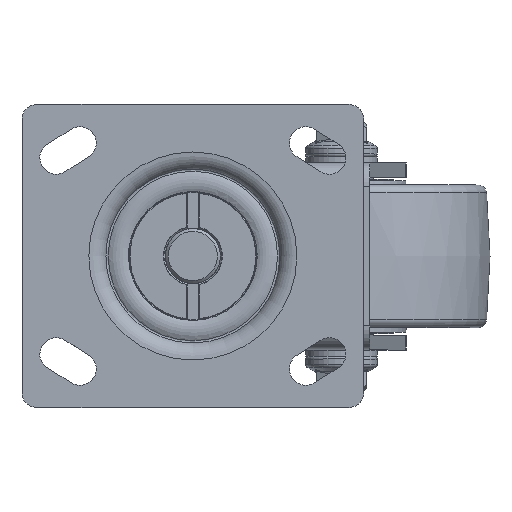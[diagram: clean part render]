
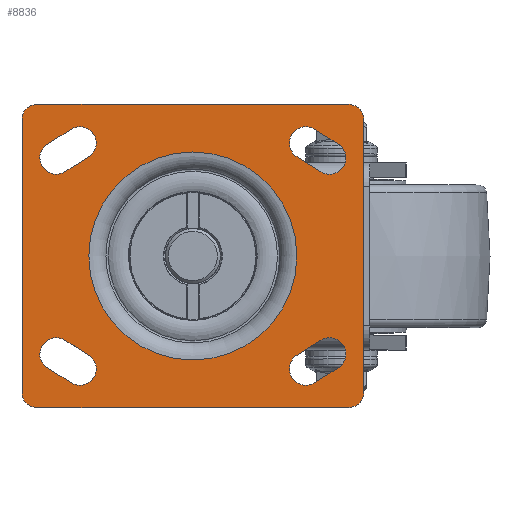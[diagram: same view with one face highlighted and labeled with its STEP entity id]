
A CAD part, top view. The second image highlights one B-rep face of the part: STEP entity #8836.
In plain terms, the highlighted planar face has unit normal (0, 0, 1).
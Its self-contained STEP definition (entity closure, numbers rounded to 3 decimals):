
#7719=CARTESIAN_POINT('',(35.0,0.,2.07));
#7720=VERTEX_POINT('',#7719);
#7721=CARTESIAN_POINT('',(0.,0.,2.07));
#7722=DIRECTION('',(0.0,0.0,-1.0));
#7723=DIRECTION('',(1.0,0.0,0.0));
#7724=AXIS2_PLACEMENT_3D('',#7721,#7722,#7723);
#7725=CIRCLE('',#7724,35.);
#7726=EDGE_CURVE('',#7720,#7720,#7725,.T.);
#8041=CARTESIAN_POINT('',(35.085,33.336,2.07));
#8042=VERTEX_POINT('',#8041);
#8049=CARTESIAN_POINT('',(43.085,28.336,2.07));
#8050=VERTEX_POINT('',#8049);
#8051=CARTESIAN_POINT('',(43.085,28.336,2.07));
#8052=DIRECTION('',(-0.848,0.53,0.0));
#8053=VECTOR('',#8052,9.434);
#8054=LINE('',#8051,#8053);
#8055=EDGE_CURVE('',#8050,#8042,#8054,.T.);
#8081=CARTESIAN_POINT('',(48.915,37.664,2.07));
#8082=VERTEX_POINT('',#8081);
#8083=CARTESIAN_POINT('',(46.0,33.,2.07));
#8084=DIRECTION('',(0.0,0.0,-1.0));
#8085=DIRECTION('',(1.0,0.0,0.0));
#8086=AXIS2_PLACEMENT_3D('',#8083,#8084,#8085);
#8087=CIRCLE('',#8086,5.5);
#8088=EDGE_CURVE('',#8082,#8050,#8087,.T.);
#8113=CARTESIAN_POINT('',(40.915,42.664,2.07));
#8114=VERTEX_POINT('',#8113);
#8115=CARTESIAN_POINT('',(40.915,42.664,2.07));
#8116=DIRECTION('',(0.848,-0.53,0.0));
#8117=VECTOR('',#8116,9.434);
#8118=LINE('',#8115,#8117);
#8119=EDGE_CURVE('',#8114,#8082,#8118,.T.);
#8143=CARTESIAN_POINT('',(38.,38.,2.07));
#8144=DIRECTION('',(0.0,0.0,-1.0));
#8145=DIRECTION('',(1.0,0.0,0.0));
#8146=AXIS2_PLACEMENT_3D('',#8143,#8144,#8145);
#8147=CIRCLE('',#8146,5.5);
#8148=EDGE_CURVE('',#8042,#8114,#8147,.T.);
#8170=CARTESIAN_POINT('',(57.5,-46.,2.07));
#8171=VERTEX_POINT('',#8170);
#8178=CARTESIAN_POINT('',(52.5,-51.,2.07));
#8179=VERTEX_POINT('',#8178);
#8180=CARTESIAN_POINT('',(52.5,-46.,2.07));
#8181=DIRECTION('',(0.0,0.0,1.0));
#8182=DIRECTION('',(1.0,0.0,0.0));
#8183=AXIS2_PLACEMENT_3D('',#8180,#8181,#8182);
#8184=CIRCLE('',#8183,5.0);
#8185=EDGE_CURVE('',#8179,#8171,#8184,.T.);
#8210=CARTESIAN_POINT('',(-52.5,-51.,2.07));
#8211=VERTEX_POINT('',#8210);
#8212=CARTESIAN_POINT('',(-52.5,-51.,2.07));
#8213=DIRECTION('',(1.0,0.0,0.0));
#8214=VECTOR('',#8213,105.0);
#8215=LINE('',#8212,#8214);
#8216=EDGE_CURVE('',#8211,#8179,#8215,.T.);
#8242=CARTESIAN_POINT('',(-57.5,-46.,2.07));
#8243=VERTEX_POINT('',#8242);
#8244=CARTESIAN_POINT('',(-52.5,-46.,2.07));
#8245=DIRECTION('',(0.0,0.0,1.0));
#8246=DIRECTION('',(1.0,0.0,0.0));
#8247=AXIS2_PLACEMENT_3D('',#8244,#8245,#8246);
#8248=CIRCLE('',#8247,5.0);
#8249=EDGE_CURVE('',#8243,#8211,#8248,.T.);
#8274=CARTESIAN_POINT('',(-57.5,46.,2.07));
#8275=VERTEX_POINT('',#8274);
#8276=CARTESIAN_POINT('',(-57.5,46.,2.07));
#8277=DIRECTION('',(0.0,-1.0,0.0));
#8278=VECTOR('',#8277,92.);
#8279=LINE('',#8276,#8278);
#8280=EDGE_CURVE('',#8275,#8243,#8279,.T.);
#8306=CARTESIAN_POINT('',(-52.5,51.,2.07));
#8307=VERTEX_POINT('',#8306);
#8308=CARTESIAN_POINT('',(-52.5,46.,2.07));
#8309=DIRECTION('',(0.0,0.0,1.0));
#8310=DIRECTION('',(1.0,0.0,0.0));
#8311=AXIS2_PLACEMENT_3D('',#8308,#8309,#8310);
#8312=CIRCLE('',#8311,5.0);
#8313=EDGE_CURVE('',#8307,#8275,#8312,.T.);
#8338=CARTESIAN_POINT('',(52.5,51.,2.07));
#8339=VERTEX_POINT('',#8338);
#8340=CARTESIAN_POINT('',(52.5,51.,2.07));
#8341=DIRECTION('',(-1.0,0.0,0.0));
#8342=VECTOR('',#8341,105.);
#8343=LINE('',#8340,#8342);
#8344=EDGE_CURVE('',#8339,#8307,#8343,.T.);
#8370=CARTESIAN_POINT('',(57.5,46.,2.07));
#8371=VERTEX_POINT('',#8370);
#8372=CARTESIAN_POINT('',(52.5,46.,2.07));
#8373=DIRECTION('',(0.0,0.0,1.0));
#8374=DIRECTION('',(1.0,0.0,0.0));
#8375=AXIS2_PLACEMENT_3D('',#8372,#8373,#8374);
#8376=CIRCLE('',#8375,5.0);
#8377=EDGE_CURVE('',#8371,#8339,#8376,.T.);
#8400=CARTESIAN_POINT('',(57.5,-46.,2.07));
#8401=DIRECTION('',(0.0,1.0,0.0));
#8402=VECTOR('',#8401,92.);
#8403=LINE('',#8400,#8402);
#8404=EDGE_CURVE('',#8171,#8371,#8403,.T.);
#8425=CARTESIAN_POINT('',(-35.085,-33.336,2.07));
#8426=VERTEX_POINT('',#8425);
#8433=CARTESIAN_POINT('',(-43.085,-28.336,2.07));
#8434=VERTEX_POINT('',#8433);
#8435=CARTESIAN_POINT('',(-43.085,-28.336,2.07));
#8436=DIRECTION('',(0.848,-0.53,0.0));
#8437=VECTOR('',#8436,9.434);
#8438=LINE('',#8435,#8437);
#8439=EDGE_CURVE('',#8434,#8426,#8438,.T.);
#8465=CARTESIAN_POINT('',(-48.915,-37.664,2.07));
#8466=VERTEX_POINT('',#8465);
#8467=CARTESIAN_POINT('',(-46.,-33.,2.07));
#8468=DIRECTION('',(0.0,0.0,-1.0));
#8469=DIRECTION('',(1.0,0.0,0.0));
#8470=AXIS2_PLACEMENT_3D('',#8467,#8468,#8469);
#8471=CIRCLE('',#8470,5.5);
#8472=EDGE_CURVE('',#8466,#8434,#8471,.T.);
#8497=CARTESIAN_POINT('',(-40.915,-42.664,2.07));
#8498=VERTEX_POINT('',#8497);
#8499=CARTESIAN_POINT('',(-40.915,-42.664,2.07));
#8500=DIRECTION('',(-0.848,0.53,0.0));
#8501=VECTOR('',#8500,9.434);
#8502=LINE('',#8499,#8501);
#8503=EDGE_CURVE('',#8498,#8466,#8502,.T.);
#8527=CARTESIAN_POINT('',(-38.0,-38.,2.07));
#8528=DIRECTION('',(0.0,0.0,-1.0));
#8529=DIRECTION('',(1.0,0.0,0.0));
#8530=AXIS2_PLACEMENT_3D('',#8527,#8528,#8529);
#8531=CIRCLE('',#8530,5.5);
#8532=EDGE_CURVE('',#8426,#8498,#8531,.T.);
#8553=CARTESIAN_POINT('',(-40.915,42.664,2.07));
#8554=VERTEX_POINT('',#8553);
#8561=CARTESIAN_POINT('',(-48.915,37.664,2.07));
#8562=VERTEX_POINT('',#8561);
#8563=CARTESIAN_POINT('',(-48.915,37.664,2.07));
#8564=DIRECTION('',(0.848,0.53,0.0));
#8565=VECTOR('',#8564,9.434);
#8566=LINE('',#8563,#8565);
#8567=EDGE_CURVE('',#8562,#8554,#8566,.T.);
#8593=CARTESIAN_POINT('',(-43.085,28.336,2.07));
#8594=VERTEX_POINT('',#8593);
#8595=CARTESIAN_POINT('',(-46.,33.,2.07));
#8596=DIRECTION('',(0.0,0.0,-1.0));
#8597=DIRECTION('',(1.0,0.0,0.0));
#8598=AXIS2_PLACEMENT_3D('',#8595,#8596,#8597);
#8599=CIRCLE('',#8598,5.5);
#8600=EDGE_CURVE('',#8594,#8562,#8599,.T.);
#8625=CARTESIAN_POINT('',(-35.085,33.336,2.07));
#8626=VERTEX_POINT('',#8625);
#8627=CARTESIAN_POINT('',(-35.085,33.336,2.07));
#8628=DIRECTION('',(-0.848,-0.53,0.0));
#8629=VECTOR('',#8628,9.434);
#8630=LINE('',#8627,#8629);
#8631=EDGE_CURVE('',#8626,#8594,#8630,.T.);
#8655=CARTESIAN_POINT('',(-38.0,38.,2.07));
#8656=DIRECTION('',(0.0,0.0,-1.0));
#8657=DIRECTION('',(1.0,0.0,0.0));
#8658=AXIS2_PLACEMENT_3D('',#8655,#8656,#8657);
#8659=CIRCLE('',#8658,5.5);
#8660=EDGE_CURVE('',#8554,#8626,#8659,.T.);
#8681=CARTESIAN_POINT('',(40.915,-42.664,2.07));
#8682=VERTEX_POINT('',#8681);
#8689=CARTESIAN_POINT('',(48.915,-37.664,2.07));
#8690=VERTEX_POINT('',#8689);
#8691=CARTESIAN_POINT('',(48.915,-37.664,2.07));
#8692=DIRECTION('',(-0.848,-0.53,0.0));
#8693=VECTOR('',#8692,9.434);
#8694=LINE('',#8691,#8693);
#8695=EDGE_CURVE('',#8690,#8682,#8694,.T.);
#8721=CARTESIAN_POINT('',(43.085,-28.336,2.07));
#8722=VERTEX_POINT('',#8721);
#8723=CARTESIAN_POINT('',(46.0,-33.,2.07));
#8724=DIRECTION('',(0.0,0.0,-1.0));
#8725=DIRECTION('',(1.0,0.0,0.0));
#8726=AXIS2_PLACEMENT_3D('',#8723,#8724,#8725);
#8727=CIRCLE('',#8726,5.5);
#8728=EDGE_CURVE('',#8722,#8690,#8727,.T.);
#8753=CARTESIAN_POINT('',(35.085,-33.336,2.07));
#8754=VERTEX_POINT('',#8753);
#8755=CARTESIAN_POINT('',(35.085,-33.336,2.07));
#8756=DIRECTION('',(0.848,0.53,0.0));
#8757=VECTOR('',#8756,9.434);
#8758=LINE('',#8755,#8757);
#8759=EDGE_CURVE('',#8754,#8722,#8758,.T.);
#8783=CARTESIAN_POINT('',(38.,-38.,2.07));
#8784=DIRECTION('',(0.0,0.0,-1.0));
#8785=DIRECTION('',(1.0,0.0,0.0));
#8786=AXIS2_PLACEMENT_3D('',#8783,#8784,#8785);
#8787=CIRCLE('',#8786,5.5);
#8788=EDGE_CURVE('',#8682,#8754,#8787,.T.);
#8794=CARTESIAN_POINT('',(67.5,0.,2.07));
#8795=DIRECTION('',(0.0,0.0,1.0));
#8796=DIRECTION('',(1.0,0.0,0.0));
#8797=AXIS2_PLACEMENT_3D('',#8794,#8795,#8796);
#8798=PLANE('',#8797);
#8799=ORIENTED_EDGE('',*,*,#8313,.T.);
#8800=ORIENTED_EDGE('',*,*,#8280,.T.);
#8801=ORIENTED_EDGE('',*,*,#8249,.T.);
#8802=ORIENTED_EDGE('',*,*,#8216,.T.);
#8803=ORIENTED_EDGE('',*,*,#8185,.T.);
#8804=ORIENTED_EDGE('',*,*,#8404,.T.);
#8805=ORIENTED_EDGE('',*,*,#8377,.T.);
#8806=ORIENTED_EDGE('',*,*,#8344,.T.);
#8807=EDGE_LOOP('',(#8799,#8800,#8801,#8802,#8803,#8804,#8805,#8806));
#8808=FACE_OUTER_BOUND('',#8807,.T.);
#8809=ORIENTED_EDGE('',*,*,#8119,.T.);
#8810=ORIENTED_EDGE('',*,*,#8088,.T.);
#8811=ORIENTED_EDGE('',*,*,#8055,.T.);
#8812=ORIENTED_EDGE('',*,*,#8148,.T.);
#8813=EDGE_LOOP('',(#8809,#8810,#8811,#8812));
#8814=FACE_BOUND('',#8813,.T.);
#8815=ORIENTED_EDGE('',*,*,#8503,.T.);
#8816=ORIENTED_EDGE('',*,*,#8472,.T.);
#8817=ORIENTED_EDGE('',*,*,#8439,.T.);
#8818=ORIENTED_EDGE('',*,*,#8532,.T.);
#8819=EDGE_LOOP('',(#8815,#8816,#8817,#8818));
#8820=FACE_BOUND('',#8819,.T.);
#8821=ORIENTED_EDGE('',*,*,#8631,.T.);
#8822=ORIENTED_EDGE('',*,*,#8600,.T.);
#8823=ORIENTED_EDGE('',*,*,#8567,.T.);
#8824=ORIENTED_EDGE('',*,*,#8660,.T.);
#8825=EDGE_LOOP('',(#8821,#8822,#8823,#8824));
#8826=FACE_BOUND('',#8825,.T.);
#8827=ORIENTED_EDGE('',*,*,#8759,.T.);
#8828=ORIENTED_EDGE('',*,*,#8728,.T.);
#8829=ORIENTED_EDGE('',*,*,#8695,.T.);
#8830=ORIENTED_EDGE('',*,*,#8788,.T.);
#8831=EDGE_LOOP('',(#8827,#8828,#8829,#8830));
#8832=FACE_BOUND('',#8831,.T.);
#8833=ORIENTED_EDGE('',*,*,#7726,.T.);
#8834=EDGE_LOOP('',(#8833));
#8835=FACE_BOUND('',#8834,.T.);
#8836=ADVANCED_FACE('',(#8808,#8814,#8820,#8826,#8832,#8835),#8798,.T.);
